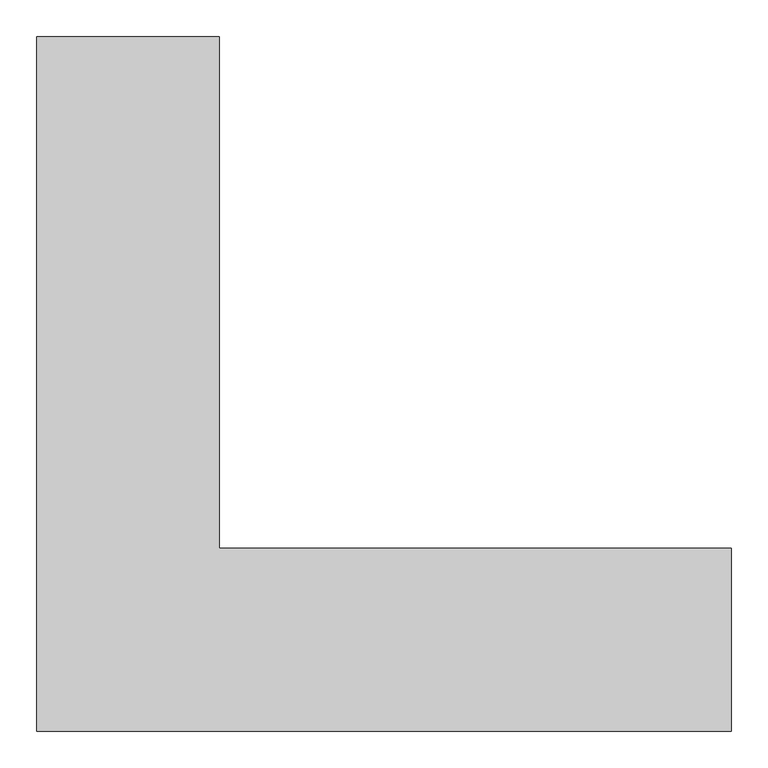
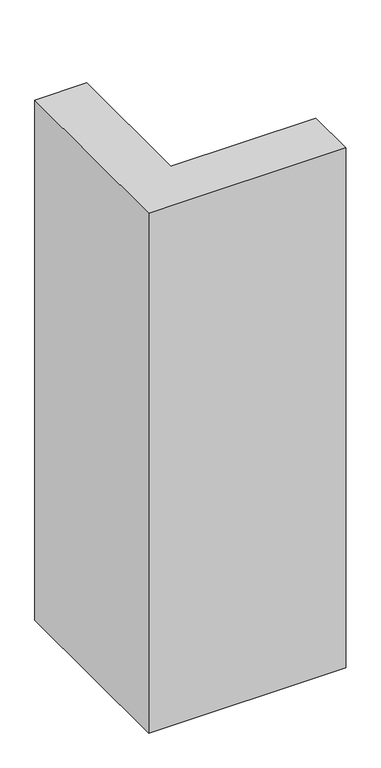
"""IFC4 building model written with IfcOpenShell, lengths in millimetres: column geometry, Columna Estructural Ele : ECO_Ele 95x95x25."""

from ifc_helpers import new_model, si_unit, frame, origin, place, context, project, spatial, polyline, outline, extrude, source, transform, mapped, element, save


def column_66ff7cc2(model_context):
    return source(origin(), model_context, "Body", "SweptSolid", [
        extrude(outline(polyline([(125.0, 825.0), (125.0, 125.0), (825.0, 125.0), (825.0, -125.0), (-125.0, -125.0), (-125.0, 825.0), (125.0, 825.0)])), frame((0.0, 0.0, 13350.0), z_axis=(0.0, 0.0, 1.0), x_axis=(1.0, 0.0, 0.0)), (0.0, 0.0, 1.0), 2650.0),
    ])


if __name__ == "__main__":
    model = new_model("IFC4")
    model_context = context("Model", 3, world=origin())
    ifc_project = project(units=[si_unit("LENGTHUNIT", "METRE", prefix="MILLI")], contexts=[model_context])
    site = spatial("IfcSite", under=ifc_project)
    building = spatial("IfcBuilding", under=site)
    placement = place(None, origin())
    column_shape = column_66ff7cc2(model_context)
    element("IfcColumn", 1, ObjectType="Columna Estructural Ele : ECO_Ele 95x95x25", at=placement, inside=building, context=model_context, shape_type="MappedRepresentation", body=[
        mapped(column_shape, transform((0.0, 0.0, 0.0), x_axis=(1.0, 0.0, 0.0), y_axis=(0.0, 1.0, 0.0), z_axis=(0.0, 0.0, 1.0))),
    ])
    save(model, "model.ifc")
